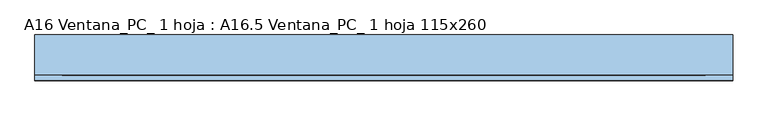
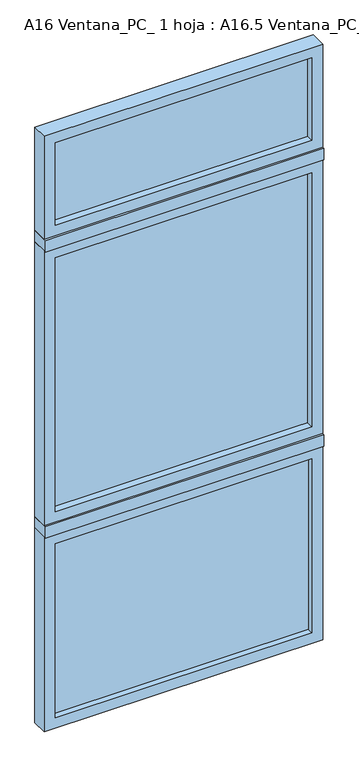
"""IFC4 building model written with IfcOpenShell, lengths in millimetres: window geometry, A16 Ventana_PC_ 1 hoja : A16.5 Ventana_PC_ 1 hoja 115x260."""

from ifc_helpers import new_model, si_unit, frame, origin, place, context, project, spatial, polyline, outline, extrude, source, transform, mapped, element, save


def a16_ventana_pc_1_hoja_a16_5_ventana_pc_1_hoja_115x260_6798fd23(model_context):
    return source(origin(), model_context, "Body", "SweptSolid", [
        extrude(outline(polyline([(530.0, -37.5), (530.0, -53.5), (-530.0, -53.5), (-530.0, -37.5), (530.0, -37.5)])), frame((0.0, 0.0, 45.0), z_axis=(0.0, 0.0, 1.0), x_axis=(1.0, 0.0, 0.0)), (0.0, 0.0, 1.0), 760.0),
        extrude(outline(polyline([(530.0, -42.5), (530.0, -48.5), (-530.0, -48.5), (-530.0, -42.5), (530.0, -42.5)])), frame((0.0, 0.0, 945.0), z_axis=(0.0, 0.0, 1.0), x_axis=(1.0, 0.0, 0.0)), (0.0, 0.0, 1.0), 1110.0),
        extrude(outline(polyline([(530.0, -42.5), (530.0, -48.5), (-530.0, -48.5), (-530.0, -42.5), (530.0, -42.5)])), frame((0.0, 0.0, 2195.0), z_axis=(0.0, 0.0, 1.0), x_axis=(1.0, 0.0, 0.0)), (0.0, 0.0, 1.0), 360.0),
        extrude(outline(polyline([(850.0, -575.0), (0.0, -575.0), (0.0, 575.0), (850.0, 575.0), (850.0, -575.0)]), holes=[polyline([(805.0, -530.0), (805.0, 530.0), (45.0, 530.0), (45.0, -530.0), (805.0, -530.0)])]), frame((0.0, -78.5, 0.0), z_axis=(0.0, 1.0, 0.0), x_axis=(0.0, 0.0, 1.0)), (0.0, 0.0, 1.0), 66.0),
        extrude(outline(polyline([(2100.0, -575.0), (900.0, -575.0), (900.0, 575.0), (2100.0, 575.0), (2100.0, -575.0)]), holes=[polyline([(2055.0, -530.0), (2055.0, 530.0), (945.0, 530.0), (945.0, -530.0), (2055.0, -530.0)])]), frame((0.0, -78.5, 0.0), z_axis=(0.0, 1.0, 0.0), x_axis=(0.0, 0.0, 1.0)), (0.0, 0.0, 1.0), 66.0),
        extrude(outline(polyline([(2600.0, -575.0), (2150.0, -575.0), (2150.0, 575.0), (2600.0, 575.0), (2600.0, -575.0)]), holes=[polyline([(2555.0, -530.0), (2555.0, 530.0), (2195.0, 530.0), (2195.0, -530.0), (2555.0, -530.0)])]), frame((0.0, -78.5, 0.0), z_axis=(0.0, 1.0, 0.0), x_axis=(0.0, 0.0, 1.0)), (0.0, 0.0, 1.0), 66.0),
        extrude(outline(polyline([(575.0, -12.5), (575.0, -87.5), (-575.0, -87.5), (-575.0, -12.5), (575.0, -12.5)])), frame((0.0, 0.0, 2100.0), z_axis=(0.0, 0.0, 1.0), x_axis=(1.0, 0.0, 0.0)), (0.0, 0.0, 1.0), 50.0),
        extrude(outline(polyline([(575.0, -12.5), (575.0, -87.5), (-575.0, -87.5), (-575.0, -12.5), (575.0, -12.5)])), frame((0.0, 0.0, 850.0), z_axis=(0.0, 0.0, 1.0), x_axis=(1.0, 0.0, 0.0)), (0.0, 0.0, 1.0), 50.0),
    ])


if __name__ == "__main__":
    model = new_model("IFC4")
    model_context = context("Model", 3, world=origin())
    ifc_project = project(units=[si_unit("LENGTHUNIT", "METRE", prefix="MILLI")], contexts=[model_context])
    site = spatial("IfcSite", under=ifc_project)
    building = spatial("IfcBuilding", under=site)
    placement = place(None, origin())
    a16_ventana_pc_1_hoja_a16_5_ventana_pc_1_hoja_115x260_shape = a16_ventana_pc_1_hoja_a16_5_ventana_pc_1_hoja_115x260_6798fd23(model_context)
    element("IfcWindow", 1, ObjectType="A16 Ventana_PC_ 1 hoja : A16.5 Ventana_PC_ 1 hoja 115x260", at=placement, inside=building, context=model_context, shape_type="MappedRepresentation", body=[
        mapped(a16_ventana_pc_1_hoja_a16_5_ventana_pc_1_hoja_115x260_shape, transform((0.0, 0.0, 0.0), x_axis=(1.0, 0.0, 0.0), y_axis=(0.0, 1.0, 0.0), z_axis=(0.0, 0.0, 1.0))),
    ])
    save(model, "model.ifc")
